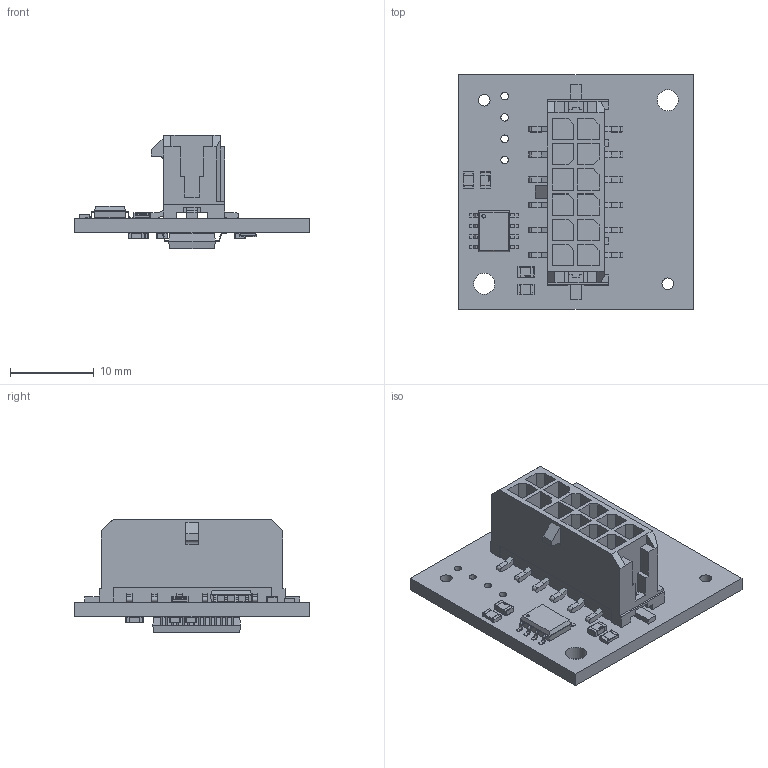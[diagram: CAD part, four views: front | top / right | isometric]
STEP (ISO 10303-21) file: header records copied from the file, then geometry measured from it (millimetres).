
FILE_DESCRIPTION(('Open CASCADE Model'),'2;1');
FILE_NAME('Open CASCADE Shape Model','2021-07-27T14:29:23',('Author'),( 'Open CASCADE'),'Open CASCADE STEP processor 6.8','Open CASCADE 6.8' ,'Unknown');
FILE_SCHEMA(('AUTOMOTIVE_DESIGN { 1 0 10303 214 1 1 1 1 }'));
Length unit declared in the file: millimetre
Products named in the file (24): PCB; Board; C1; C0805; C2; C3; C4; C5; C7; IC2; SW3dPS-SSOP-28; IC3; SW3DPS-SO-8-DEFAULT; L1; SW3dPS-R0805; P1; 430451219; Open CASCADE STEP translator 6.8 6.11.1.1; Open CASCADE STEP translator 6.8 6.11.1.2; R2; R3; C8; R1; C9
Assembly tree (33 placements, depth 4):
  PCB
    Board
    C1
      C0805
    C2
      C0805
    C3
      C0805
    C4
      C0805
    C5
      C0805
    C7
      C0805
    IC2
      SW3dPS-SSOP-28
    IC3
      SW3DPS-SO-8-DEFAULT
    L1
      SW3dPS-R0805
    P1
      430451219
        Open CASCADE STEP translator 6.8 6.11.1.1
        Open CASCADE STEP translator 6.8 6.11.1.2
    R2
      SW3dPS-R0805
    R3
      SW3dPS-R0805
    C8
      C0805
    R1
      SW3dPS-R0805
    C9
      C0805
Bounding box: 28 x 28 x 13.57 mm (x, y, z)
Volume: 2314.3 mm3; surface area: 4208.4 mm2
Topology: 61 solids, 61 shells, 2097 faces, 5523 edges, 3640 vertices
Faces by surface type: plane 1228, bspline 480, cylinder 389
Full cylindrical faces by diameter (mm): 0.9 x4, 1.4 x2, 2.5 x2
Entity records: 44713 total; most frequent: CARTESIAN_POINT 11273, ORIENTED_EDGE 6150, DIRECTION 5756, EDGE_CURVE 3075, LINE 2538, VECTOR 2538, VERTEX_POINT 2028, AXIS2_PLACEMENT_3D 1609
